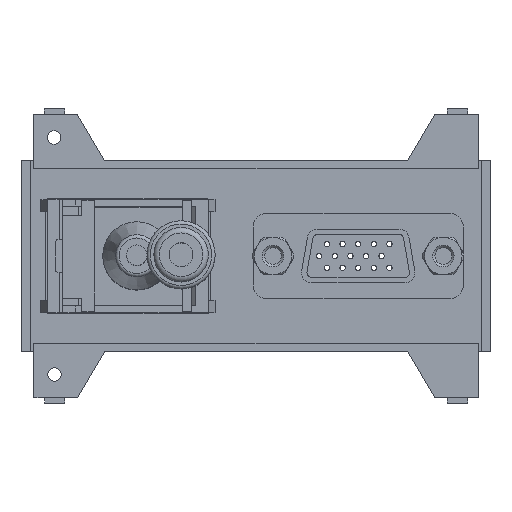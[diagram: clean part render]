
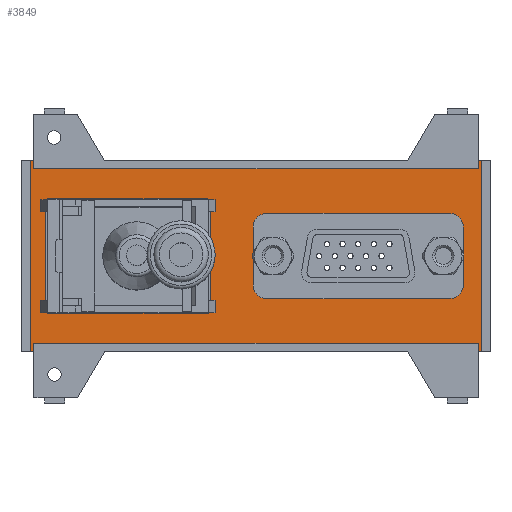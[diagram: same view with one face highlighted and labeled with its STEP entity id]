
A CAD part, top view. The second image highlights one B-rep face of the part: STEP entity #3849.
In plain terms, the highlighted planar face has unit normal (0, 0, 1).
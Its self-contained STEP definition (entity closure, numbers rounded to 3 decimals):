
#3313 = VERTEX_POINT('',#3314);
#3314 = CARTESIAN_POINT('',(5.214,3.987,1.2));
#3320 = EDGE_CURVE('',#3321,#3313,#3323,.T.);
#3321 = VERTEX_POINT('',#3322);
#3322 = CARTESIAN_POINT('',(6.73,-4.513,1.2));
#3323 = LINE('',#3324,#3325);
#3324 = CARTESIAN_POINT('',(5.321,3.387,1.2));
#3325 = VECTOR('',#3326,1.);
#3326 = DIRECTION('',(-0.175,0.984,0.));
#3343 = EDGE_CURVE('',#3313,#3344,#3346,.T.);
#3344 = VERTEX_POINT('',#3345);
#3345 = CARTESIAN_POINT('',(6.691,5.75,1.2));
#3346 = CIRCLE('',#3347,1.5);
#3347 = AXIS2_PLACEMENT_3D('',#3348,#3349,#3350);
#3348 = CARTESIAN_POINT('',(6.691,4.25,1.2));
#3349 = DIRECTION('',(-0.,-0.,-1.));
#3350 = DIRECTION('',(0.,-1.,0.));
#3369 = VERTEX_POINT('',#3370);
#3370 = CARTESIAN_POINT('',(8.206,-5.75,1.2));
#3376 = EDGE_CURVE('',#3321,#3369,#3377,.T.);
#3377 = CIRCLE('',#3378,1.5);
#3378 = AXIS2_PLACEMENT_3D('',#3379,#3380,#3381);
#3379 = CARTESIAN_POINT('',(8.206,-4.25,1.2));
#3380 = DIRECTION('',(-0.,0.,1.));
#3381 = DIRECTION('',(0.,-1.,0.));
#3394 = VERTEX_POINT('',#3395);
#3395 = CARTESIAN_POINT('',(23.309,5.75,1.2));
#3401 = EDGE_CURVE('',#3344,#3394,#3402,.T.);
#3402 = LINE('',#3403,#3404);
#3403 = CARTESIAN_POINT('',(12.55,5.75,1.2));
#3404 = VECTOR('',#3405,1.);
#3405 = DIRECTION('',(1.,0.,0.));
#3418 = EDGE_CURVE('',#3419,#3369,#3421,.T.);
#3419 = VERTEX_POINT('',#3420);
#3420 = CARTESIAN_POINT('',(21.794,-5.75,1.2));
#3421 = LINE('',#3422,#3423);
#3422 = CARTESIAN_POINT('',(3.475,-5.75,1.2));
#3423 = VECTOR('',#3424,1.);
#3424 = DIRECTION('',(-1.,0.,0.));
#3442 = EDGE_CURVE('',#3443,#3394,#3445,.T.);
#3443 = VERTEX_POINT('',#3444);
#3444 = CARTESIAN_POINT('',(24.786,3.987,1.2));
#3445 = CIRCLE('',#3446,1.5);
#3446 = AXIS2_PLACEMENT_3D('',#3447,#3448,#3449);
#3447 = CARTESIAN_POINT('',(23.309,4.25,1.2));
#3448 = DIRECTION('',(-0.,0.,1.));
#3449 = DIRECTION('',(0.,-1.,0.));
#3467 = VERTEX_POINT('',#3468);
#3468 = CARTESIAN_POINT('',(23.27,-4.513,1.2));
#3474 = EDGE_CURVE('',#3419,#3467,#3475,.T.);
#3475 = CIRCLE('',#3476,1.5);
#3476 = AXIS2_PLACEMENT_3D('',#3477,#3478,#3479);
#3477 = CARTESIAN_POINT('',(21.794,-4.25,1.2));
#3478 = DIRECTION('',(-0.,0.,1.));
#3479 = DIRECTION('',(0.,-1.,0.));
#3492 = EDGE_CURVE('',#3443,#3467,#3493,.T.);
#3493 = LINE('',#3494,#3495);
#3494 = CARTESIAN_POINT('',(23.192,-4.955,1.2));
#3495 = VECTOR('',#3496,1.);
#3496 = DIRECTION('',(-0.175,-0.984,0.));
#3509 = VERTEX_POINT('',#3510);
#3510 = CARTESIAN_POINT('',(-30.95,-7.9,1.2));
#3516 = EDGE_CURVE('',#3517,#3509,#3519,.T.);
#3517 = VERTEX_POINT('',#3518);
#3518 = CARTESIAN_POINT('',(-30.95,7.9,1.2));
#3519 = LINE('',#3520,#3521);
#3520 = CARTESIAN_POINT('',(-30.95,-4.2,1.2));
#3521 = VECTOR('',#3522,1.);
#3522 = DIRECTION('',(0.,-1.,0.));
#3540 = VERTEX_POINT('',#3541);
#3541 = CARTESIAN_POINT('',(-30.45,-8.4,1.2));
#3547 = EDGE_CURVE('',#3509,#3540,#3548,.T.);
#3548 = CIRCLE('',#3549,0.5);
#3549 = AXIS2_PLACEMENT_3D('',#3550,#3551,#3552);
#3550 = CARTESIAN_POINT('',(-30.45,-7.9,1.2));
#3551 = DIRECTION('',(-0.,0.,1.));
#3552 = DIRECTION('',(0.,-1.,0.));
#3564 = EDGE_CURVE('',#3517,#3565,#3567,.T.);
#3565 = VERTEX_POINT('',#3566);
#3566 = CARTESIAN_POINT('',(-30.45,8.4,1.2));
#3567 = CIRCLE('',#3568,0.5);
#3568 = AXIS2_PLACEMENT_3D('',#3569,#3570,#3571);
#3569 = CARTESIAN_POINT('',(-30.45,7.9,1.2));
#3570 = DIRECTION('',(-0.,-0.,-1.));
#3571 = DIRECTION('',(0.,-1.,0.));
#3590 = VERTEX_POINT('',#3591);
#3591 = CARTESIAN_POINT('',(-7.15,-8.4,1.2));
#3597 = EDGE_CURVE('',#3540,#3590,#3598,.T.);
#3598 = LINE('',#3599,#3600);
#3599 = CARTESIAN_POINT('',(-3.325,-8.4,1.2));
#3600 = VECTOR('',#3601,1.);
#3601 = DIRECTION('',(1.,0.,0.));
#3614 = EDGE_CURVE('',#3615,#3565,#3617,.T.);
#3615 = VERTEX_POINT('',#3616);
#3616 = CARTESIAN_POINT('',(-7.15,8.4,1.2));
#3617 = LINE('',#3618,#3619);
#3618 = CARTESIAN_POINT('',(-15.475,8.4,1.2));
#3619 = VECTOR('',#3620,1.);
#3620 = DIRECTION('',(-1.,0.,0.));
#3638 = VERTEX_POINT('',#3639);
#3639 = CARTESIAN_POINT('',(-6.65,-7.9,1.2));
#3645 = EDGE_CURVE('',#3590,#3638,#3646,.T.);
#3646 = CIRCLE('',#3647,0.5);
#3647 = AXIS2_PLACEMENT_3D('',#3648,#3649,#3650);
#3648 = CARTESIAN_POINT('',(-7.15,-7.9,1.2));
#3649 = DIRECTION('',(-0.,0.,1.));
#3650 = DIRECTION('',(0.,-1.,0.));
#3663 = EDGE_CURVE('',#3664,#3615,#3666,.T.);
#3664 = VERTEX_POINT('',#3665);
#3665 = CARTESIAN_POINT('',(-6.65,7.9,1.2));
#3666 = CIRCLE('',#3667,0.5);
#3667 = AXIS2_PLACEMENT_3D('',#3668,#3669,#3670);
#3668 = CARTESIAN_POINT('',(-7.15,7.9,1.2));
#3669 = DIRECTION('',(-0.,0.,1.));
#3670 = DIRECTION('',(0.,-1.,0.));
#3688 = EDGE_CURVE('',#3638,#3664,#3689,.T.);
#3689 = LINE('',#3690,#3691);
#3690 = CARTESIAN_POINT('',(-6.65,4.2,1.2));
#3691 = VECTOR('',#3692,1.);
#3692 = DIRECTION('',(0.,1.,0.));
#3805 = VERTEX_POINT('',#3806);
#3806 = CARTESIAN_POINT('',(3.5,0.,1.2));
#3812 = EDGE_CURVE('',#3805,#3805,#3813,.T.);
#3813 = CIRCLE('',#3814,1.);
#3814 = AXIS2_PLACEMENT_3D('',#3815,#3816,#3817);
#3815 = CARTESIAN_POINT('',(2.5,0.,1.2));
#3816 = DIRECTION('',(0.,0.,-1.));
#3817 = DIRECTION('',(1.,0.,0.));
#3830 = VERTEX_POINT('',#3831);
#3831 = CARTESIAN_POINT('',(28.5,0.,1.2));
#3837 = EDGE_CURVE('',#3830,#3830,#3838,.T.);
#3838 = CIRCLE('',#3839,1.);
#3839 = AXIS2_PLACEMENT_3D('',#3840,#3841,#3842);
#3840 = CARTESIAN_POINT('',(27.5,0.,1.2));
#3841 = DIRECTION('',(0.,0.,-1.));
#3842 = DIRECTION('',(1.,0.,0.));
#3849 = ADVANCED_FACE('',(#3850,#3860,#3870,#3968,#3971),#3974,.T.);
#3850 = FACE_BOUND('',#3851,.T.);
#3851 = EDGE_LOOP('',(#3852,#3853,#3854,#3855,#3856,#3857,#3858,#3859));
#3852 = ORIENTED_EDGE('',*,*,#3418,.T.);
#3853 = ORIENTED_EDGE('',*,*,#3376,.F.);
#3854 = ORIENTED_EDGE('',*,*,#3320,.T.);
#3855 = ORIENTED_EDGE('',*,*,#3343,.T.);
#3856 = ORIENTED_EDGE('',*,*,#3401,.T.);
#3857 = ORIENTED_EDGE('',*,*,#3442,.F.);
#3858 = ORIENTED_EDGE('',*,*,#3492,.T.);
#3859 = ORIENTED_EDGE('',*,*,#3474,.F.);
#3860 = FACE_BOUND('',#3861,.T.);
#3861 = EDGE_LOOP('',(#3862,#3863,#3864,#3865,#3866,#3867,#3868,#3869));
#3862 = ORIENTED_EDGE('',*,*,#3614,.F.);
#3863 = ORIENTED_EDGE('',*,*,#3663,.F.);
#3864 = ORIENTED_EDGE('',*,*,#3688,.F.);
#3865 = ORIENTED_EDGE('',*,*,#3645,.F.);
#3866 = ORIENTED_EDGE('',*,*,#3597,.F.);
#3867 = ORIENTED_EDGE('',*,*,#3547,.F.);
#3868 = ORIENTED_EDGE('',*,*,#3516,.F.);
#3869 = ORIENTED_EDGE('',*,*,#3564,.T.);
#3870 = FACE_BOUND('',#3871,.T.);
#3871 = EDGE_LOOP('',(#3872,#3882,#3890,#3898,#3906,#3914,#3922,#3930,
    #3938,#3946,#3954,#3962));
#3872 = ORIENTED_EDGE('',*,*,#3873,.F.);
#3873 = EDGE_CURVE('',#3874,#3876,#3878,.T.);
#3874 = VERTEX_POINT('',#3875);
#3875 = CARTESIAN_POINT('',(-33.15,-14.,1.2));
#3876 = VERTEX_POINT('',#3877);
#3877 = CARTESIAN_POINT('',(-33.15,14.,1.2));
#3878 = LINE('',#3879,#3880);
#3879 = CARTESIAN_POINT('',(-33.15,-14.,1.2));
#3880 = VECTOR('',#3881,1.);
#3881 = DIRECTION('',(0.,1.,0.));
#3882 = ORIENTED_EDGE('',*,*,#3883,.T.);
#3883 = EDGE_CURVE('',#3874,#3884,#3886,.T.);
#3884 = VERTEX_POINT('',#3885);
#3885 = CARTESIAN_POINT('',(-32.65,-14.,1.2));
#3886 = LINE('',#3887,#3888);
#3887 = CARTESIAN_POINT('',(-34.35,-14.,1.2));
#3888 = VECTOR('',#3889,1.);
#3889 = DIRECTION('',(1.,0.,0.));
#3890 = ORIENTED_EDGE('',*,*,#3891,.F.);
#3891 = EDGE_CURVE('',#3892,#3884,#3894,.T.);
#3892 = VERTEX_POINT('',#3893);
#3893 = CARTESIAN_POINT('',(-32.65,-12.8,1.2));
#3894 = LINE('',#3895,#3896);
#3895 = CARTESIAN_POINT('',(-32.65,-12.8,1.2));
#3896 = VECTOR('',#3897,1.);
#3897 = DIRECTION('',(0.,-1.,0.));
#3898 = ORIENTED_EDGE('',*,*,#3899,.F.);
#3899 = EDGE_CURVE('',#3900,#3892,#3902,.T.);
#3900 = VERTEX_POINT('',#3901);
#3901 = CARTESIAN_POINT('',(32.65,-12.8,1.2));
#3902 = LINE('',#3903,#3904);
#3903 = CARTESIAN_POINT('',(32.65,-12.8,1.2));
#3904 = VECTOR('',#3905,1.);
#3905 = DIRECTION('',(-1.,0.,0.));
#3906 = ORIENTED_EDGE('',*,*,#3907,.F.);
#3907 = EDGE_CURVE('',#3908,#3900,#3910,.T.);
#3908 = VERTEX_POINT('',#3909);
#3909 = CARTESIAN_POINT('',(32.65,-14.,1.2));
#3910 = LINE('',#3911,#3912);
#3911 = CARTESIAN_POINT('',(32.65,-14.,1.2));
#3912 = VECTOR('',#3913,1.);
#3913 = DIRECTION('',(0.,1.,0.));
#3914 = ORIENTED_EDGE('',*,*,#3915,.T.);
#3915 = EDGE_CURVE('',#3908,#3916,#3918,.T.);
#3916 = VERTEX_POINT('',#3917);
#3917 = CARTESIAN_POINT('',(33.15,-14.,1.2));
#3918 = LINE('',#3919,#3920);
#3919 = CARTESIAN_POINT('',(-34.35,-14.,1.2));
#3920 = VECTOR('',#3921,1.);
#3921 = DIRECTION('',(1.,0.,0.));
#3922 = ORIENTED_EDGE('',*,*,#3923,.F.);
#3923 = EDGE_CURVE('',#3924,#3916,#3926,.T.);
#3924 = VERTEX_POINT('',#3925);
#3925 = CARTESIAN_POINT('',(33.15,14.,1.2));
#3926 = LINE('',#3927,#3928);
#3927 = CARTESIAN_POINT('',(33.15,14.,1.2));
#3928 = VECTOR('',#3929,1.);
#3929 = DIRECTION('',(0.,-1.,0.));
#3930 = ORIENTED_EDGE('',*,*,#3931,.T.);
#3931 = EDGE_CURVE('',#3924,#3932,#3934,.T.);
#3932 = VERTEX_POINT('',#3933);
#3933 = CARTESIAN_POINT('',(32.65,14.,1.2));
#3934 = LINE('',#3935,#3936);
#3935 = CARTESIAN_POINT('',(34.35,14.,1.2));
#3936 = VECTOR('',#3937,1.);
#3937 = DIRECTION('',(-1.,0.,0.));
#3938 = ORIENTED_EDGE('',*,*,#3939,.F.);
#3939 = EDGE_CURVE('',#3940,#3932,#3942,.T.);
#3940 = VERTEX_POINT('',#3941);
#3941 = CARTESIAN_POINT('',(32.65,12.8,1.2));
#3942 = LINE('',#3943,#3944);
#3943 = CARTESIAN_POINT('',(32.65,12.8,1.2));
#3944 = VECTOR('',#3945,1.);
#3945 = DIRECTION('',(0.,1.,0.));
#3946 = ORIENTED_EDGE('',*,*,#3947,.F.);
#3947 = EDGE_CURVE('',#3948,#3940,#3950,.T.);
#3948 = VERTEX_POINT('',#3949);
#3949 = CARTESIAN_POINT('',(-32.65,12.8,1.2));
#3950 = LINE('',#3951,#3952);
#3951 = CARTESIAN_POINT('',(-32.65,12.8,1.2));
#3952 = VECTOR('',#3953,1.);
#3953 = DIRECTION('',(1.,0.,0.));
#3954 = ORIENTED_EDGE('',*,*,#3955,.F.);
#3955 = EDGE_CURVE('',#3956,#3948,#3958,.T.);
#3956 = VERTEX_POINT('',#3957);
#3957 = CARTESIAN_POINT('',(-32.65,14.,1.2));
#3958 = LINE('',#3959,#3960);
#3959 = CARTESIAN_POINT('',(-32.65,14.,1.2));
#3960 = VECTOR('',#3961,1.);
#3961 = DIRECTION('',(0.,-1.,0.));
#3962 = ORIENTED_EDGE('',*,*,#3963,.T.);
#3963 = EDGE_CURVE('',#3956,#3876,#3964,.T.);
#3964 = LINE('',#3965,#3966);
#3965 = CARTESIAN_POINT('',(34.35,14.,1.2));
#3966 = VECTOR('',#3967,1.);
#3967 = DIRECTION('',(-1.,0.,0.));
#3968 = FACE_BOUND('',#3969,.T.);
#3969 = EDGE_LOOP('',(#3970));
#3970 = ORIENTED_EDGE('',*,*,#3812,.T.);
#3971 = FACE_BOUND('',#3972,.T.);
#3972 = EDGE_LOOP('',(#3973));
#3973 = ORIENTED_EDGE('',*,*,#3837,.T.);
#3974 = PLANE('',#3975);
#3975 = AXIS2_PLACEMENT_3D('',#3976,#3977,#3978);
#3976 = CARTESIAN_POINT('',(0.,0.,1.2));
#3977 = DIRECTION('',(0.,0.,1.));
#3978 = DIRECTION('',(1.,0.,-0.));
